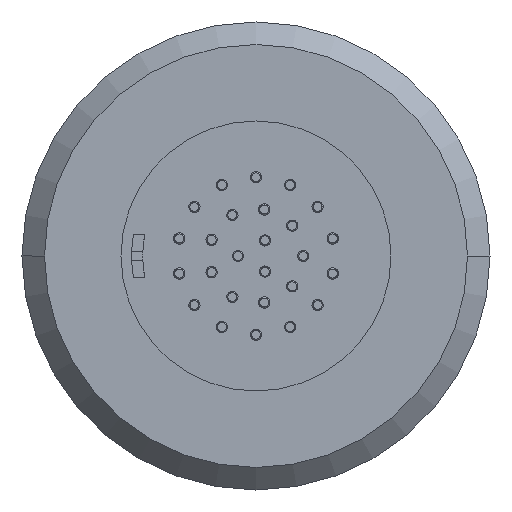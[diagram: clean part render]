
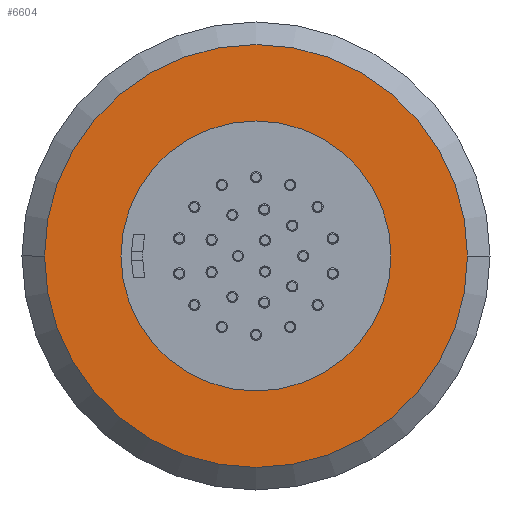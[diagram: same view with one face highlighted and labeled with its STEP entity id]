
A CAD part, left-side view. The second image highlights one B-rep face of the part: STEP entity #6604.
In plain terms, the highlighted planar face has unit normal (-1, 0, 0).
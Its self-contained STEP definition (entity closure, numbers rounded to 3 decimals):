
#503=CARTESIAN_POINT('',(-9.,0.,0.));
#504=DIRECTION('',(1.,0.,0.));
#505=DIRECTION('',(0.,1.,0.));
#506=AXIS2_PLACEMENT_3D('',#503,#504,#505);
#508=CARTESIAN_POINT('',(-9.,0.,0.));
#509=DIRECTION('',(1.,0.,0.));
#510=DIRECTION('',(0.,0.,1.));
#511=AXIS2_PLACEMENT_3D('',#508,#509,#510);
#513=CARTESIAN_POINT('',(-9.,0.,0.));
#514=DIRECTION('',(1.,0.,0.));
#515=DIRECTION('',(0.,-1.,0.));
#516=AXIS2_PLACEMENT_3D('',#513,#514,#515);
#518=CARTESIAN_POINT('',(-9.,0.,0.));
#519=DIRECTION('',(1.,0.,0.));
#520=DIRECTION('',(0.,0.,-1.));
#521=AXIS2_PLACEMENT_3D('',#518,#519,#520);
#523=CARTESIAN_POINT('',(-9.,0.,0.));
#524=DIRECTION('',(-1.,0.,0.));
#525=DIRECTION('',(0.,-1.,0.));
#526=AXIS2_PLACEMENT_3D('',#523,#524,#525);
#528=CARTESIAN_POINT('',(-9.,0.,0.));
#529=DIRECTION('',(-1.,0.,0.));
#530=DIRECTION('',(0.,1.,0.));
#531=AXIS2_PLACEMENT_3D('',#528,#529,#530);
#5017=CARTESIAN_POINT('',(-9.,-9.4,0.));
#5018=VERTEX_POINT('',#5017);
#5019=CARTESIAN_POINT('',(-9.,9.4,0.));
#5020=CARTESIAN_POINT('',(-9.,0.,9.4));
#5021=VERTEX_POINT('',#5019);
#5022=VERTEX_POINT('',#5020);
#5025=CARTESIAN_POINT('',(-9.,0.,-9.4));
#5026=VERTEX_POINT('',#5025);
#5027=CARTESIAN_POINT('',(-9.,-6.,0.));
#5028=CARTESIAN_POINT('',(-9.,6.,0.));
#5029=VERTEX_POINT('',#5027);
#5030=VERTEX_POINT('',#5028);
#6587=CARTESIAN_POINT('',(-9.,0.,0.));
#6588=DIRECTION('',(-1.,0.,0.));
#6589=DIRECTION('',(0.,-1.,0.));
#6590=AXIS2_PLACEMENT_3D('',#6587,#6588,#6589);
#6591=PLANE('',#6590);
#6592=ORIENTED_EDGE('',*,*,#6528,.T.);
#6593=ORIENTED_EDGE('',*,*,#6526,.T.);
#6594=ORIENTED_EDGE('',*,*,#6554,.T.);
#6595=ORIENTED_EDGE('',*,*,#6552,.T.);
#6596=EDGE_LOOP('',(#6592,#6593,#6594,#6595));
#6597=FACE_OUTER_BOUND('',#6596,.F.);
#6599=ORIENTED_EDGE('',*,*,#6598,.T.);
#6601=ORIENTED_EDGE('',*,*,#6600,.T.);
#6602=EDGE_LOOP('',(#6599,#6601));
#6603=FACE_BOUND('',#6602,.F.);
#507=CIRCLE('',#506,9.4);
#512=CIRCLE('',#511,9.4);
#517=CIRCLE('',#516,9.4);
#522=CIRCLE('',#521,9.4);
#527=CIRCLE('',#526,6.);
#532=CIRCLE('',#531,6.);
#6526=EDGE_CURVE('',#5022,#5018,#512,.T.);
#6528=EDGE_CURVE('',#5021,#5022,#507,.T.);
#6552=EDGE_CURVE('',#5026,#5021,#522,.T.);
#6554=EDGE_CURVE('',#5018,#5026,#517,.T.);
#6598=EDGE_CURVE('',#5029,#5030,#527,.T.);
#6600=EDGE_CURVE('',#5030,#5029,#532,.T.);
#6604=ADVANCED_FACE('',(#6597,#6603),#6591,.T.);
